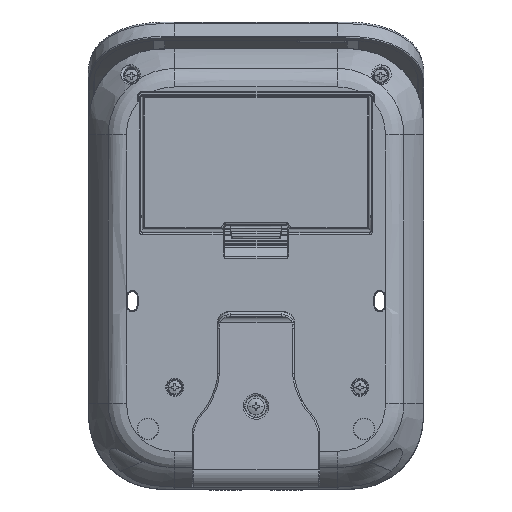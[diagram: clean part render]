
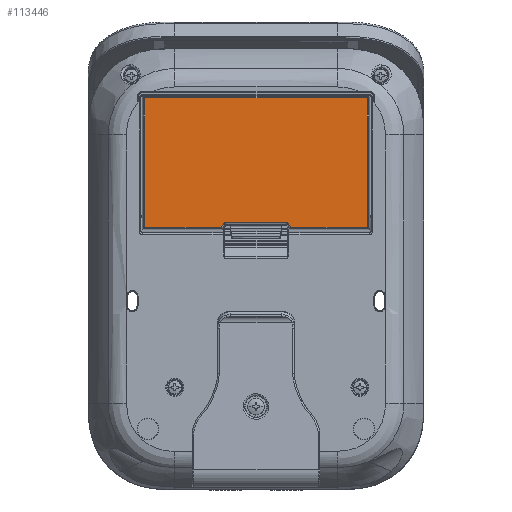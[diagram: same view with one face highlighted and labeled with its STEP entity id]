
A CAD part, front view. The second image highlights one B-rep face of the part: STEP entity #113446.
In plain terms, the highlighted planar face has unit normal (0, -1, 0).
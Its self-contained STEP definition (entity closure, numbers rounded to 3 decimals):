
#110284=DIRECTION('',(1.,0.,0.));
#110285=VECTOR('',#110284,23.989);
#110286=CARTESIAN_POINT('',(-34.837,-45.65,59.063));
#110287=LINE('',#110286,#110285);
#110288=DIRECTION('',(0.,0.,-1.));
#110289=VECTOR('',#110288,40.475);
#110290=CARTESIAN_POINT('',(-34.837,-45.65,99.537));
#110291=LINE('',#110290,#110289);
#110292=DIRECTION('',(-1.,0.,0.));
#110293=VECTOR('',#110292,69.675);
#110294=CARTESIAN_POINT('',(34.837,-45.65,99.537));
#110295=LINE('',#110294,#110293);
#110296=DIRECTION('',(0.,0.,1.));
#110297=VECTOR('',#110296,40.475);
#110298=CARTESIAN_POINT('',(34.837,-45.65,59.063));
#110299=LINE('',#110298,#110297);
#110300=DIRECTION('',(1.,0.,0.));
#110301=VECTOR('',#110300,23.989);
#110302=CARTESIAN_POINT('',(10.848,-45.65,
59.063));
#110303=LINE('',#110302,#110301);
#110304=DIRECTION('',(-0.501,0.,0.866));
#110305=VECTOR('',#110304,1.156);
#110306=CARTESIAN_POINT('',(10.848,-45.65,
59.063));
#110307=LINE('',#110306,#110305);
#110308=DIRECTION('',(1.,0.,0.));
#110309=VECTOR('',#110308,19.156);
#110310=CARTESIAN_POINT('',(-9.578,-45.65,60.463));
#110311=LINE('',#110310,#110309);
#110312=DIRECTION('',(-0.501,0.,
-0.866));
#110313=VECTOR('',#110312,1.156);
#110314=CARTESIAN_POINT('',(-10.27,-45.65,60.064));
#110315=LINE('',#110314,#110313);
#110330=CARTESIAN_POINT('',(-10.848,-45.65,
59.063));
#110384=CARTESIAN_POINT('',(-10.27,-45.65,60.064));
#110385=CARTESIAN_POINT('',(-10.256,-45.65,
60.087));
#110386=CARTESIAN_POINT('',(-10.226,-45.65,
60.134));
#110387=CARTESIAN_POINT('',(-10.173,-45.65,
60.199));
#110388=CARTESIAN_POINT('',(-10.113,-45.65,
60.259));
#110389=CARTESIAN_POINT('',(-10.048,-45.65,
60.312));
#110390=CARTESIAN_POINT('',(-9.978,-45.65,
60.357));
#110391=CARTESIAN_POINT('',(-9.903,-45.65,
60.395));
#110392=CARTESIAN_POINT('',(-9.825,-45.65,
60.425));
#110393=CARTESIAN_POINT('',(-9.743,-45.65,
60.447));
#110394=CARTESIAN_POINT('',(-9.661,-45.65,
60.46));
#110395=CARTESIAN_POINT('',(-9.605,-45.65,
60.463));
#110396=CARTESIAN_POINT('',(-9.578,-45.65,60.463));
#110422=CARTESIAN_POINT('',(9.578,-45.65,60.463));
#110423=CARTESIAN_POINT('',(9.605,-45.65,
60.463));
#110424=CARTESIAN_POINT('',(9.66,-45.65,
60.46));
#110425=CARTESIAN_POINT('',(9.743,-45.65,
60.447));
#110426=CARTESIAN_POINT('',(9.824,-45.65,
60.425));
#110427=CARTESIAN_POINT('',(9.903,-45.65,
60.395));
#110428=CARTESIAN_POINT('',(9.977,-45.65,
60.357));
#110429=CARTESIAN_POINT('',(10.047,-45.65,
60.312));
#110430=CARTESIAN_POINT('',(10.113,-45.65,
60.259));
#110431=CARTESIAN_POINT('',(10.172,-45.65,
60.2));
#110432=CARTESIAN_POINT('',(10.225,-45.65,
60.135));
#110433=CARTESIAN_POINT('',(10.255,-45.65,
60.088));
#110434=CARTESIAN_POINT('',(10.27,-45.65,60.064));
#110448=CARTESIAN_POINT('',(10.848,-45.65,
59.063));
#112486=CARTESIAN_POINT('',(34.837,-45.65,99.537));
#112487=CARTESIAN_POINT('',(-34.837,-45.65,99.537));
#112488=VERTEX_POINT('',#112486);
#112489=VERTEX_POINT('',#112487);
#112492=CARTESIAN_POINT('',(34.837,-45.65,59.063));
#112493=VERTEX_POINT('',#112492);
#112502=CARTESIAN_POINT('',(-34.837,-45.65,59.063));
#112503=VERTEX_POINT('',#112502);
#112767=VERTEX_POINT('',#110330);
#112769=CARTESIAN_POINT('',(-9.578,-45.65,60.463));
#112771=VERTEX_POINT('',#112769);
#112773=CARTESIAN_POINT('',(-10.27,-45.65,60.064));
#112775=VERTEX_POINT('',#112773);
#112790=VERTEX_POINT('',#110448);
#112795=CARTESIAN_POINT('',(10.27,-45.65,60.064));
#112797=VERTEX_POINT('',#112795);
#112799=CARTESIAN_POINT('',(9.578,-45.65,60.463));
#112801=VERTEX_POINT('',#112799);
#113421=CARTESIAN_POINT('',(-35.6,-45.65,58.3));
#113422=DIRECTION('',(0.,1.,0.));
#113423=DIRECTION('',(1.,0.,0.));
#113424=AXIS2_PLACEMENT_3D('',#113421,#113422,#113423);
#113425=PLANE('',#113424);
#113427=ORIENTED_EDGE('',*,*,#113426,.F.);
#113428=ORIENTED_EDGE('',*,*,#113412,.F.);
#113429=ORIENTED_EDGE('',*,*,#113189,.F.);
#113431=ORIENTED_EDGE('',*,*,#113430,.F.);
#113433=ORIENTED_EDGE('',*,*,#113432,.F.);
#113435=ORIENTED_EDGE('',*,*,#113434,.T.);
#113437=ORIENTED_EDGE('',*,*,#113436,.F.);
#113439=ORIENTED_EDGE('',*,*,#113438,.F.);
#113441=ORIENTED_EDGE('',*,*,#113440,.F.);
#113443=ORIENTED_EDGE('',*,*,#113442,.T.);
#113444=EDGE_LOOP('',(#113427,#113428,#113429,#113431,#113433,#113435,#113437,
#113439,#113441,#113443));
#113445=FACE_OUTER_BOUND('',#113444,.F.);
#110397=B_SPLINE_CURVE_WITH_KNOTS('',3,(#110384,#110385,#110386,#110387,#110388,
#110389,#110390,#110391,#110392,#110393,#110394,#110395,#110396),.UNSPECIFIED.,
.F.,.F.,(4,1,1,1,1,1,1,1,1,1,4),(0.,0.1,0.2,0.3,0.4,0.5,0.6,0.7,
0.8,0.9,1.),.UNSPECIFIED.);
#110435=B_SPLINE_CURVE_WITH_KNOTS('',3,(#110422,#110423,#110424,#110425,#110426,
#110427,#110428,#110429,#110430,#110431,#110432,#110433,#110434),.UNSPECIFIED.,
.F.,.F.,(4,1,1,1,1,1,1,1,1,1,4),(0.,0.1,0.2,0.3,0.4,0.5,0.6,0.7,
0.8,0.9,1.),.UNSPECIFIED.);
#113189=EDGE_CURVE('',#112488,#112489,#110295,.T.);
#113412=EDGE_CURVE('',#112489,#112503,#110291,.T.);
#113426=EDGE_CURVE('',#112503,#112767,#110287,.T.);
#113430=EDGE_CURVE('',#112493,#112488,#110299,.T.);
#113432=EDGE_CURVE('',#112790,#112493,#110303,.T.);
#113434=EDGE_CURVE('',#112790,#112797,#110307,.T.);
#113436=EDGE_CURVE('',#112801,#112797,#110435,.T.);
#113438=EDGE_CURVE('',#112771,#112801,#110311,.T.);
#113440=EDGE_CURVE('',#112775,#112771,#110397,.T.);
#113442=EDGE_CURVE('',#112775,#112767,#110315,.T.);
#113446=ADVANCED_FACE('',(#113445),#113425,.F.);
